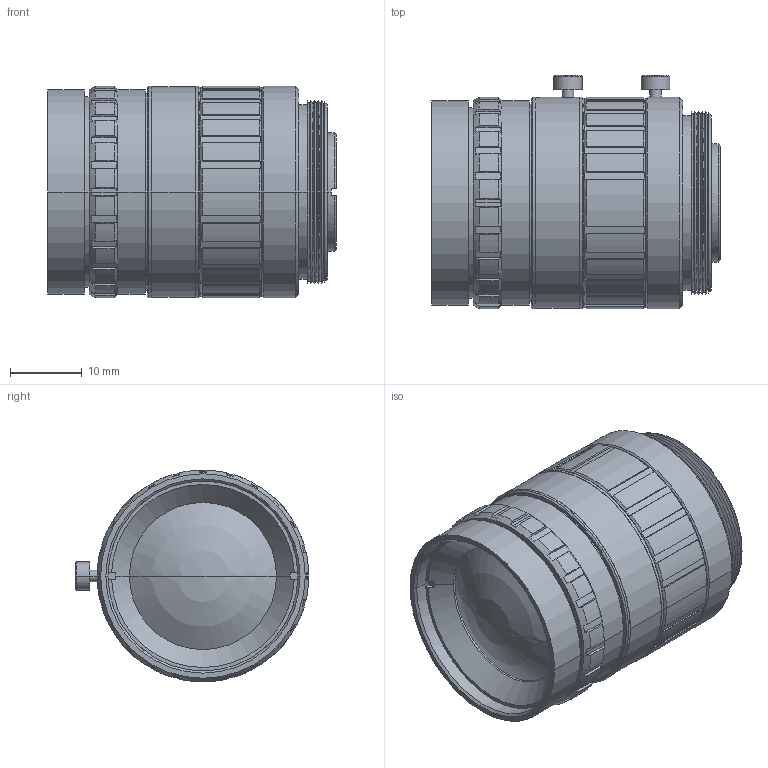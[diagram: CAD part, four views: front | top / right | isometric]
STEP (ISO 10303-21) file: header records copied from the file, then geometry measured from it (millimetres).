
FILE_DESCRIPTION(('LS-FFL-0125'),'2;1');
FILE_NAME('LS-FFL-0125.stp','2026-10-15T21:51:41',('LumaSpec Vision'),('LumaSpec Vision'),'LumaSpec Vision','LumaSpec Vision','');
FILE_SCHEMA(('AUTOMOTIVE_DESIGN { 1 0 10303 214 1 1 1 1 }'));
Length unit declared in the file: millimetre
Products named in the file (1): LS-FFL-0125
Bounding box: 40.2 x 32.55 x 29.5 mm (x, y, z)
Volume: 23426.1 mm3; surface area: 6624.7 mm2
Topology: 1 solids, 1 shells, 328 faces, 872 edges, 560 vertices
Faces by surface type: cylinder 135, plane 131, cone 60, sphere 2
Entity records: 31393 total; most frequent: CARTESIAN_POINT 14591, DIRECTION 3011, ORIENTED_EDGE 1740, PCURVE 1740, DEFINITIONAL_REPRESENTATION 1740, LINE 1566, VECTOR 1566, EDGE_CURVE 870
